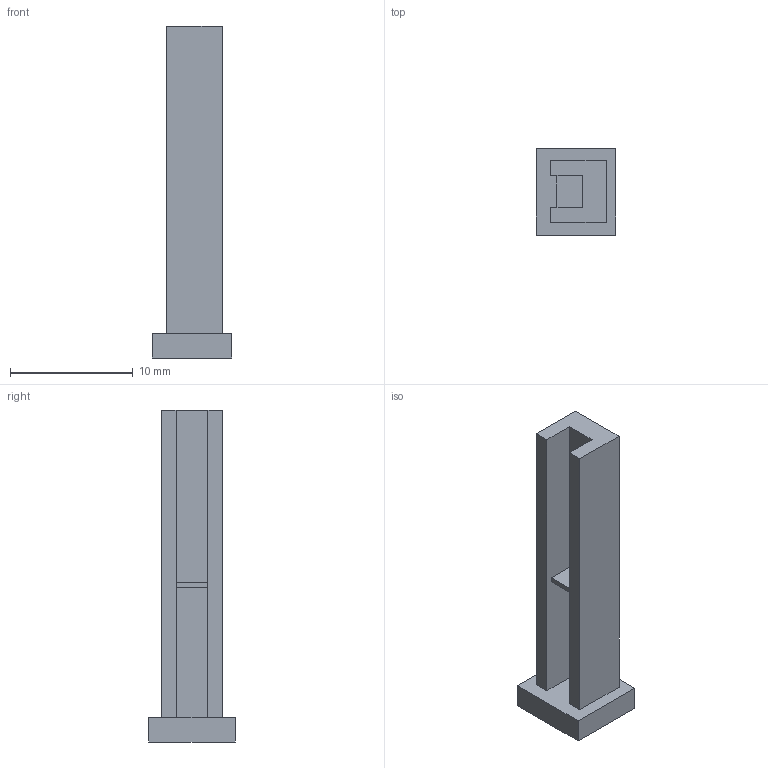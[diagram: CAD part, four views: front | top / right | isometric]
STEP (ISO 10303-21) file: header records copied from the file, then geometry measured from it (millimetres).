
FILE_DESCRIPTION(('Open CASCADE Model'),'2;1');
FILE_NAME('Open CASCADE Shape Model','2026-11-08T21:30:43',('Author'),( 'Open CASCADE'),'Open CASCADE STEP processor 7.8','Open CASCADE 7.8' ,'Unknown');
FILE_SCHEMA(('AUTOMOTIVE_DESIGN { 1 0 10303 214 1 1 1 1 }'));
Length unit declared in the file: millimetre
Products named in the file (1): Open CASCADE STEP translator 7.8 8
Bounding box: 6.5 x 7 x 27 mm (x, y, z)
Volume: 486.7 mm3; surface area: 759.2 mm2
Topology: 1 solids, 1 shells, 19 faces, 48 edges, 32 vertices
Faces by surface type: plane 19
Entity records: 1196 total; most frequent: CARTESIAN_POINT 196, DIRECTION 184, LINE 144, VECTOR 144, ORIENTED_EDGE 96, PCURVE 96, DEFINITIONAL_REPRESENTATION 96, EDGE_CURVE 48
